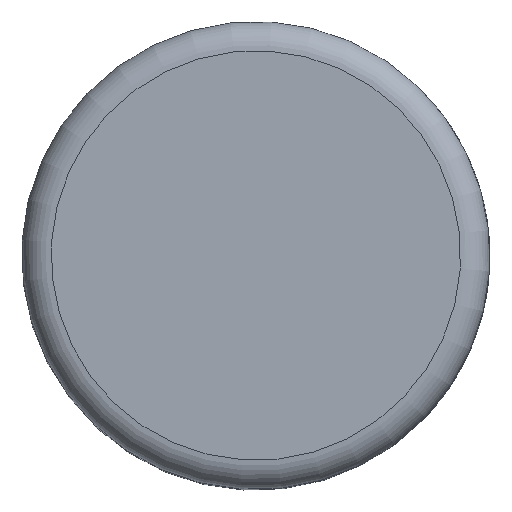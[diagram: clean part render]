
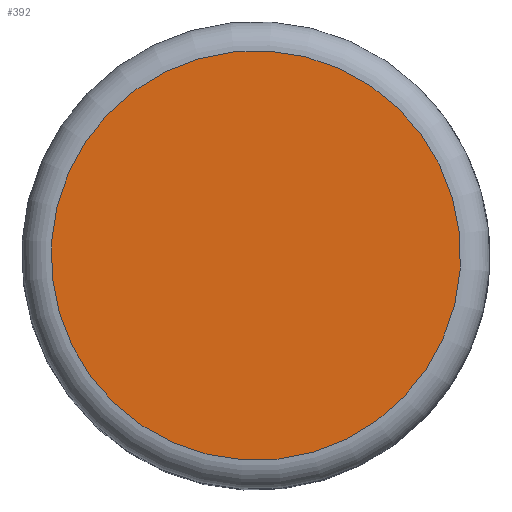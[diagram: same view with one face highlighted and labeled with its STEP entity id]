
A CAD part, top view. The second image highlights one B-rep face of the part: STEP entity #392.
In plain terms, the highlighted planar face has unit normal (0, 0, 1).
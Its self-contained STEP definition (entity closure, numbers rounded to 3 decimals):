
#361=PLANE('',#774);
#370=FACE_OUTER_BOUND('',#511,.T.);
#392=ADVANCED_FACE('',(#370),#361,.T.);
#511=EDGE_LOOP('',(#586));
#586=ORIENTED_EDGE('',*,*,#688,.T.);
#650=VERTEX_POINT('',#1049);
#688=EDGE_CURVE('',#650,#650,#719,.T.);
#719=CIRCLE('',#764,7.);
#764=AXIS2_PLACEMENT_3D('',#1048,#867,#868);
#774=AXIS2_PLACEMENT_3D('',#1064,#887,#888);
#867=DIRECTION('',(0.,0.,1.));
#868=DIRECTION('',(0.998,-0.066,0.));
#887=DIRECTION('',(0.,0.,1.));
#888=DIRECTION('',(-0.998,0.066,0.));
#1048=CARTESIAN_POINT('',(0.,0.,
17.2));
#1049=CARTESIAN_POINT('',(6.985,-0.464,17.2));
#1064=CARTESIAN_POINT('',(3.991,-0.265,17.2));
